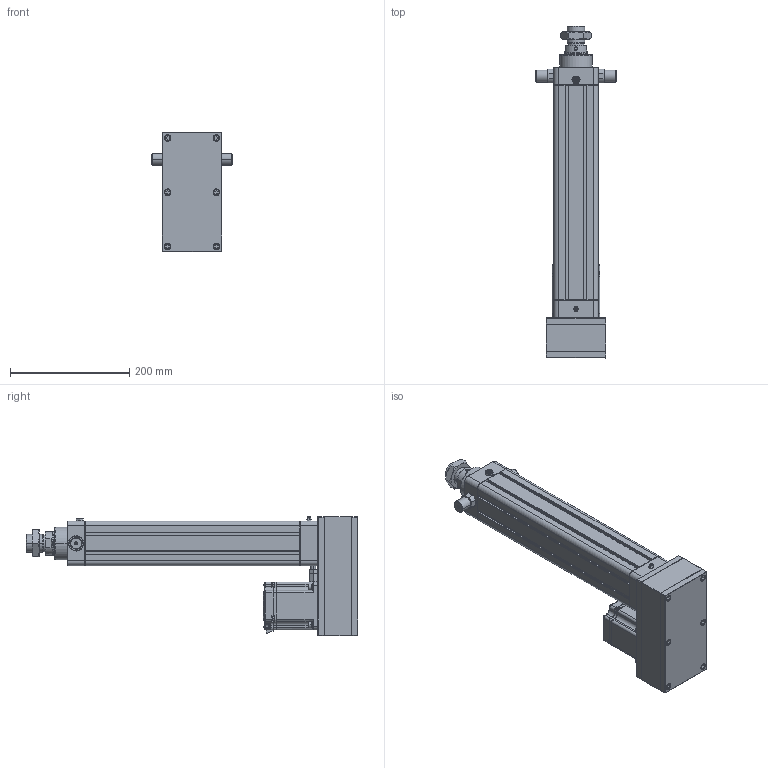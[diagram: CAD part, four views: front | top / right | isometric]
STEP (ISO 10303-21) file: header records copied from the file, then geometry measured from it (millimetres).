
FILE_DESCRIPTION((''),'2;1');
FILE_NAME('HE63-D-100-X1_ASM','2020-05-15T',('ASUS20200'),(''),'CREO PARAMETRIC BY PTC INC, 2014190','CREO PARAMETRIC BY PTC INC, 2014190','');
FILE_SCHEMA(('CONFIG_CONTROL_DESIGN'));
Length unit declared in the file: millimetre
Products named in the file (24): HE63-D-P-001-X1; HE63-D-P-002-X1; HE63-D-P-003-X1; LGLM-M8-22; SLM-01; YZ-M6X1; JDB405030; HE63-P-010-X1-80N; _MHMF082L1A2; MHMF082L1A2M2_1_ASM; JX6X6X25; HE63-P-012-X1; HE63-P-013-X1; M6X60; JM-M8; LM-M8-15; LM-M8X1-25; HE63-D-P-005-X1; HE63-D-P-004-X1; HE63-D-P-008-X1; TD-6; M6X25; HE63-TC; HE63-D-100-X1_ASM
Assembly tree (42 placements, depth 3):
  HE63-D-100-X1_ASM
    HE63-D-P-001-X1
    HE63-D-P-002-X1
    HE63-D-P-003-X1
    LGLM-M8-22  x8
    SLM-01
    YZ-M6X1
    JDB405030
    HE63-P-010-X1-80N
    MHMF082L1A2M2_1_ASM
      _MHMF082L1A2
    JX6X6X25
    HE63-P-012-X1
    HE63-P-013-X1
    M6X60  x6
    JM-M8
    LM-M8-15
    LM-M8X1-25
    HE63-D-P-005-X1
    HE63-D-P-004-X1
    HE63-D-P-008-X1
    TD-6  x4
    M6X25  x4
    HE63-TC  x2
Bounding box: 135 x 557 x 200.5 mm (x, y, z)
Volume: 2312890.8 mm3; surface area: 635055.2 mm2
Topology: 41 solids, 73 shells, 2419 faces, 5807 edges, 3566 vertices
Faces by surface type: plane 958, cylinder 691, cone 635, torus 102, sphere 30, bspline 3
Entity records: 57847 total; most frequent: CARTESIAN_POINT 11381, DIRECTION 10117, ORIENTED_EDGE 9158, EDGE_CURVE 4639, AXIS2_PLACEMENT_3D 3829, VERTEX_POINT 2860, VECTOR 2459, LINE 2459
